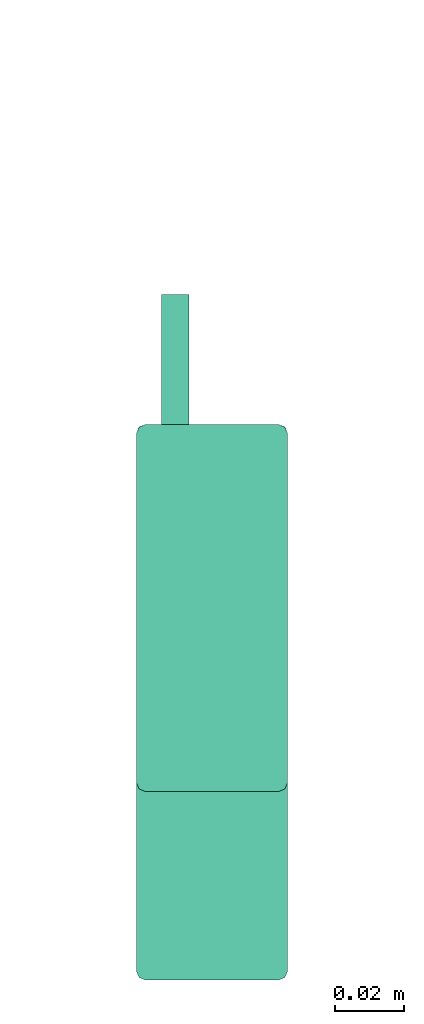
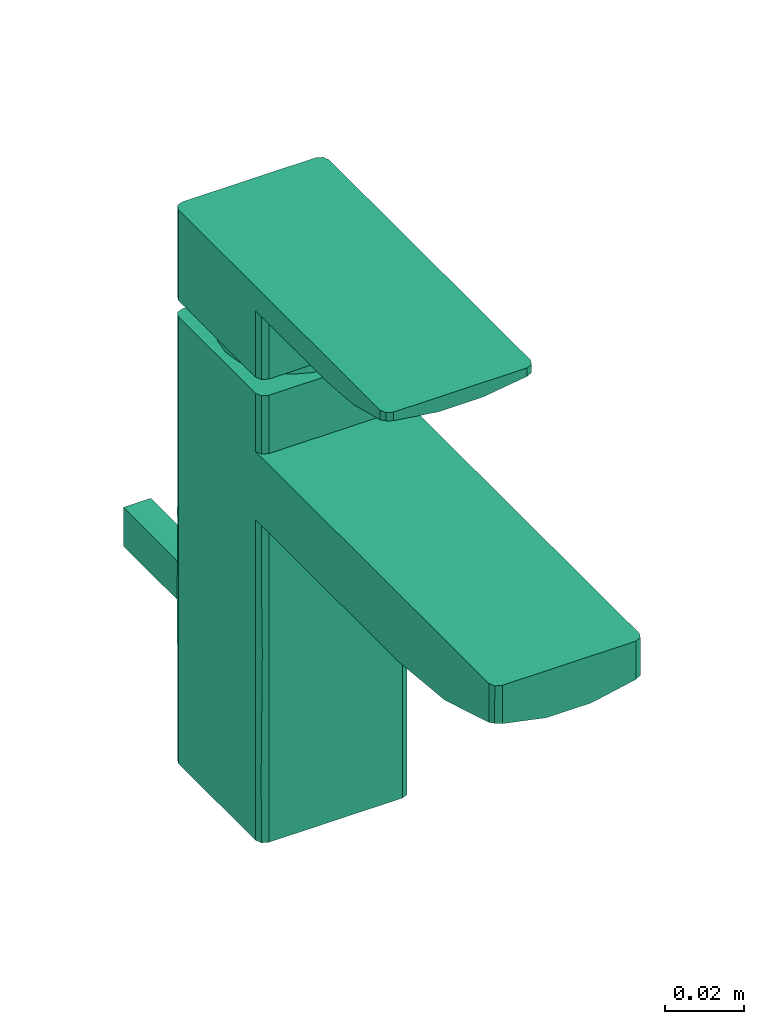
# One storey, part 2 of 2: 1 flow terminal.
"""IFC2X3 building model written with IfcOpenShell, lengths in millimetres."""

from ifc_helpers import new_model, entity, si_unit, converted_unit, derived_unit, direction, frame, origin, place, context, subcontext, project, spatial, faceted_brep, source, transform, mapped, material, type_object, type_shapes, element, save


model = new_model("IFC2X3")

# Units and contexts
model_context = context("Model", 3, precision=0.01, world=origin(), true_north=direction((6.12303176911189e-17, 1.0)))
body_context = subcontext(model_context, "Body", "Model", "MODEL_VIEW")
ifc_project = project(units=[si_unit("LENGTHUNIT", "METRE", prefix="MILLI"), si_unit("AREAUNIT", "SQUARE_METRE"), si_unit("VOLUMEUNIT", "CUBIC_METRE"), converted_unit("PLANEANGLEUNIT", "DEGREE", entity("IfcRatioMeasure", 0.0174532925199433), si_unit("PLANEANGLEUNIT", "RADIAN"), dimensions=[0, 0, 0, 0, 0, 0, 0]), si_unit("MASSUNIT", "GRAM", prefix="KILO"), derived_unit("MASSDENSITYUNIT", [(si_unit("MASSUNIT", "GRAM", prefix="KILO"), 1), (si_unit("LENGTHUNIT", "METRE"), -3)]), derived_unit("MOMENTOFINERTIAUNIT", [(si_unit("LENGTHUNIT", "METRE"), 4)]), si_unit("TIMEUNIT", "SECOND"), si_unit("FREQUENCYUNIT", "HERTZ"), si_unit("THERMODYNAMICTEMPERATUREUNIT", "DEGREE_CELSIUS"), derived_unit("THERMALTRANSMITTANCEUNIT", [(si_unit("MASSUNIT", "GRAM", prefix="KILO"), 1), (si_unit("THERMODYNAMICTEMPERATUREUNIT", "KELVIN"), -1), (si_unit("TIMEUNIT", "SECOND"), -3)]), derived_unit("VOLUMETRICFLOWRATEUNIT", [(si_unit("LENGTHUNIT", "METRE"), 3), (si_unit("TIMEUNIT", "SECOND"), -1)]), si_unit("ELECTRICCURRENTUNIT", "AMPERE"), si_unit("ELECTRICVOLTAGEUNIT", "VOLT"), si_unit("POWERUNIT", "WATT"), si_unit("FORCEUNIT", "NEWTON", prefix="KILO"), si_unit("ILLUMINANCEUNIT", "LUX"), si_unit("LUMINOUSFLUXUNIT", "LUMEN"), si_unit("LUMINOUSINTENSITYUNIT", "CANDELA"), derived_unit("USERDEFINED", [(si_unit("MASSUNIT", "GRAM", prefix="KILO"), -1), (si_unit("LENGTHUNIT", "METRE"), -2), (si_unit("TIMEUNIT", "SECOND"), 3), (si_unit("LUMINOUSFLUXUNIT", "LUMEN"), 1)]), derived_unit("LINEARVELOCITYUNIT", [(si_unit("LENGTHUNIT", "METRE"), 1), (si_unit("TIMEUNIT", "SECOND"), -1)]), si_unit("PRESSUREUNIT", "PASCAL"), derived_unit("USERDEFINED", [(si_unit("LENGTHUNIT", "METRE"), -2), (si_unit("MASSUNIT", "GRAM", prefix="KILO"), 1), (si_unit("TIMEUNIT", "SECOND"), -2)]), derived_unit("LINEARFORCEUNIT", [(si_unit("MASSUNIT", "GRAM", prefix="KILO"), 1), (si_unit("LENGTHUNIT", "METRE"), 1), (si_unit("TIMEUNIT", "SECOND"), -2), (si_unit("LENGTHUNIT", "METRE"), -1)]), derived_unit("PLANARFORCEUNIT", [(si_unit("MASSUNIT", "GRAM", prefix="KILO"), 1), (si_unit("LENGTHUNIT", "METRE"), 1), (si_unit("TIMEUNIT", "SECOND"), -2), (si_unit("LENGTHUNIT", "METRE"), -2)])], contexts=[model_context])

# Site, building, storey
site_placement = place(None, origin())
site = spatial("IfcSite", under=ifc_project, at=site_placement, Name="Default", CompositionType="ELEMENT")
building_placement = place(site_placement, origin())
building = spatial("IfcBuilding", under=site, at=building_placement, CompositionType="ELEMENT")
storey_placement = place(building_placement, origin())
storey = spatial("IfcBuildingStorey", under=building, at=storey_placement, Name="Level 1", CompositionType="ELEMENT", Elevation=0.0)

# Flow terminal
ifc_material = material(Name="Brushed Hard Graphite")
distribution_element_type = type_object("IfcDistributionElementType", Name="FFAS1301-101AL0BT0_REVIT:Acacia E SH SL basin mixer", material=ifc_material)
shared_shape = source(origin(), body_context, "Body", "Brep", [
    faceted_brep([(6.57743038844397, -22.0, 95.7626945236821), (-6.57743038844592, -22.0, 95.7626945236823), (-19.5, -22.0, 98.2239049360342), (-19.5, -22.0, 84.4217309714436), (-19.5, -22.0, 70.6195564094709), (-19.5, -22.0, 49.1119524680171), (-19.5, -22.0, 36.8339642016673), (-19.5, -22.0, 24.5559759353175), (-19.5, -22.0, 0.0), (19.4999999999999, -22.0, 0.0), (19.4999999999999, -22.0, 13.802173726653), (19.4999999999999, -22.0, 27.6043474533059), (19.4999999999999, -22.0, 41.4065222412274), (19.4999999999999, -22.0, 55.2086959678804), (19.4999999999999, -22.0, 76.7163009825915), (19.4999999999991, -22.0, 98.2239049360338), (19.5, -22.0, 138.0), (-19.5, -22.0, 138.0), (-19.5, -22.0, 120.0), (19.4999999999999, -22.0, 120.0), (0.0, -22.0, 160.962760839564), (-19.5000000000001, -22.0, 162.921385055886), (-19.5, -22.0, 143.0), (19.5, -22.0, 143.0), (19.4999999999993, -22.0, 162.921385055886), (-21.2677669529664, -21.2677669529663, 0.0), (-21.3250901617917, -21.2085215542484, 20.7032620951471), (-21.2484251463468, -21.2868994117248, 98.7558813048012), (-21.2496983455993, -21.2856527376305, 77.5206438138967), (-21.1055475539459, -21.4163029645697, 58.5102880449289), (-22.0, -19.5, 71.3956512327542), (-22.0, -19.5, 57.5934777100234), (-22.0, -19.5, 13.8021743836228), (-22.0, -19.5, 0.0), (-22.0, -19.5, 138.0), (-22.0, -19.5, 120.0), (-21.2677669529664, -21.2677669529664, 120.0), (-21.2677669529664, -21.2677669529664, 138.0), (-21.2007290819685, -21.3323538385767, 42.9729592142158), (-22.0, -19.5, 27.6043479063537), (-22.0, -19.5, 85.1978256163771), (-22.0, -19.5, 43.7913033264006), (-22.0, -19.5, 99.0), (21.2484251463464, -21.2868994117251, 98.7558813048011), (21.3461670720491, -21.1857245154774, 78.2967388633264), (22.0, -19.5, 13.8021741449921), (22.0, -19.5, 27.6043482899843), (21.2677669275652, -21.2677669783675, 20.7032614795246), (21.2677669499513, -21.2677669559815, 38.2956879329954), (22.0, -19.5, 71.3956517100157), (21.3361299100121, -21.1966516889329, 62.0904782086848), (21.2677669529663, -21.2677669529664, 0.0), (21.2677669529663, -21.2677669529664, 120.0), (21.2677669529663, -21.2677669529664, 138.0), (21.2677669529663, -21.2677669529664, 143.0), (22.0, -19.5, 85.1978258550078), (22.0, -19.5, 0.0), (22.0, -19.5, 49.4999992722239), (22.0, -19.5, 120.0), (22.0, -19.5, 138.0), (22.0, -19.5, 99.0), (22.0, -56.0171086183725, 99.0), (22.0, -37.7585543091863, 99.0), (22.0, -28.6292316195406, 99.0), (22.0, -24.0646158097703, 99.0), (-22.0, -37.7585315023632, 99.0), (-22.0, -56.0171095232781, 99.0), (-22.0, -24.0646328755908, 99.0), (-7.44565170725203, -92.0, 95.8501010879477), (-22.0, -92.0, 99.0), (7.4456517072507, -92.0, 95.8501010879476), (-22.0, -28.6292657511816, 99.0), (22.0, -92.0, 99.0), (-6.47819386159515, -113.347478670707, 97.6132068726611), (-4.80963952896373, -111.411871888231, 97.1525244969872), (-2.55855296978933, -110.149892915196, 96.8385292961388), (-22.0, -115.185414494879, 101.257316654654), (0.0, -109.712505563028, 96.7271891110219), (-7.36528992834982, -118.275588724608, 98.672408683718), (-7.36649669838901, -115.732154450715, 98.1460443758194), (-19.5000000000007, -140.0, 108.15399342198), (2.55855296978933, -110.149892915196, 96.8385292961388), (22.0, -115.185414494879, 101.257316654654), (4.80963952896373, -111.411871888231, 97.1525244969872), (6.47819386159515, -113.347478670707, 97.6132068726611), (7.36649669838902, -115.732154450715, 98.1460443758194), (7.36528992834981, -118.275588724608, 98.672408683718), (-6.58448876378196, -140.0, 105.478393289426), (-6.47617672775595, -120.674281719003, 99.1296249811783), (-4.80602874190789, -122.635875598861, 99.4756849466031), (-2.55792381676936, -123.918316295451, 99.6885992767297), (0.0, -124.364630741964, 99.7602539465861), (-21.2806853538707, -139.254753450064, 108.424116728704), (-22.0, -137.500000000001, 107.94448328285), (6.60304870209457, -140.0, 105.480299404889), (2.55792381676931, -123.918316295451, 99.6885992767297), (4.80602874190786, -122.635875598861, 99.475684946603), (19.5, -140.0, 108.15399342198), (6.47617672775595, -120.674281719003, 99.1296249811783), (22.0, -137.5, 107.94448328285), (21.2816508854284, -139.253773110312, 108.424033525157), (-22.0, -137.5, 120.0), (-21.2677669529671, -139.267766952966, 120.0), (-19.5000000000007, -140.0, 120.0), (19.5, -140.0, 120.0), (21.2677669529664, -139.267766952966, 120.0), (22.0, -137.5, 120.0), (-22.0, 19.5, 138.0), (-22.0, 19.5, 124.19782548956), (-22.0, 19.5, 103.499999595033), (-22.0, 19.5, 86.2499997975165), (-22.0, 19.5, 69.0), (-22.0, 19.5, 51.7500002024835), (-22.0, 19.5, 34.5000004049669), (-22.0, 19.5, 13.8021745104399), (-22.0, 19.5, 0.0), (-22.0, -82.5, 171.0), (-22.0, 19.5, 171.0), (-22.0, 19.5, 163.462760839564), (-22.0, 19.5, 143.0), (-22.0, -19.5, 143.0), (-22.0, -19.5, 163.462760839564), (-22.0, -20.8505832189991, 163.462760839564), (-22.0, -22.2011664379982, 163.462760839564), (-22.0, -24.9023328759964, 163.462760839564), (-22.0, -30.3046657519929, 163.462760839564), (-22.0, -41.1093315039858, 163.462760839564), (-22.0, -55.7774207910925, 163.462760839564), (-22.0, -69.3306105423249, 164.607182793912), (-22.0, -82.5, 168.008040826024), (22.0, 19.5, 0.0), (22.0, 19.5, 13.8021736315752), (22.0, 19.5, 27.6043472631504), (22.0, 19.5, 41.3956514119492), (22.0, 19.5, 62.0934784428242), (22.0, 19.5, 82.7913028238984), (22.0, 19.5, 96.5934764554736), (22.0, 19.5, 110.39565273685), (22.0, 19.5, 124.197826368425), (22.0, 19.5, 138.0), (22.0, -82.5, 171.0), (22.0, -82.5, 168.008040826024), (22.0, -69.3306105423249, 164.607182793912), (22.0, -55.7774207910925, 163.462760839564), (22.0, -41.1093311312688, 163.462760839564), (22.0, -30.3046655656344, 163.462760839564), (22.0, -24.9023327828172, 163.462760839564), (22.0, -22.2011663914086, 163.462760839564), (22.0, -20.8505831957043, 163.462760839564), (22.0, -19.5, 163.462760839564), (22.0, -19.5, 143.0), (22.0, 19.5, 143.0), (22.0, 19.4999999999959, 163.462760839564), (22.0, 19.4999999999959, 171.0), (21.2677669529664, 21.2677669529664, 138.0), (19.5, 22.0, 138.0), (13.7885822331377, 13.7885822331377, 138.0), (9.75000000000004, 16.8874953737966, 138.0), (5.04697137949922, 18.8355536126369, 138.0), (0.0, 19.5000000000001, 138.0), (-19.5, 22.0, 138.0), (-5.04697137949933, 18.8355536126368, 138.0), (-9.7500000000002, 16.8874953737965, 138.0), (-13.7885822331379, 13.7885822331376, 138.0), (-21.2677669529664, 21.2677669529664, 138.0), (-16.8874953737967, 9.74999999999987, 138.0), (-18.8355536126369, 5.04697137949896, 138.0), (-19.5, 0.0, 138.0), (-18.8355536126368, -5.04697137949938, 138.0), (-16.8874953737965, -9.75000000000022, 138.0), (-13.7885822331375, -13.7885822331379, 138.0), (-9.7499999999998, -16.8874953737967, 138.0), (-5.04697137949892, -18.8355536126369, 138.0), (0.0, -19.5, 138.0), (5.04697137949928, -18.8355536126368, 138.0), (9.75000000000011, -16.8874953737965, 138.0), (13.7885822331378, -13.7885822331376, 138.0), (19.5000000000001, 0.0, 138.0), (18.8355536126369, -5.0469713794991, 138.0), (16.8874953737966, -9.74999999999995, 138.0), (16.8874953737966, 9.75000000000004, 138.0), (18.8355536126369, 5.04697137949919, 138.0), (-21.2677669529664, 21.2677669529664, 0.0), (-19.5, 22.0, 0.0), (19.5, 22.0, 0.0), (21.2677669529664, 21.2677669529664, 0.0), (-6.65799145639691, 22.0, 51.9931021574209), (19.5, 22.0, 124.197825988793), (19.5, 22.0, 103.499999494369), (19.5, 22.0, 86.2499982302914), (19.5, 22.0, 68.9999989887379), (19.5, 22.0, 51.7499997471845), (19.5, 22.0, 34.500000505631), (19.5, 22.0, 13.8021740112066), (-6.65799145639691, 22.0, 39.9931021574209), (-14.6579914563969, 22.0, 39.9931021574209), (-14.6579914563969, 22.0, 51.9931021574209), (-19.5, 22.0, 13.8021738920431), (-19.5, 22.0, 27.6043482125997), (-19.5, 22.0, 41.3956520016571), (-19.5, 22.0, 62.0934777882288), (-19.5, 22.0, 82.7913035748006), (-19.5, 22.0, 96.5934778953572), (-19.5, 22.0, 110.3956517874), (-19.5, 22.0, 124.197825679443), (-19.5, 22.0, 162.921385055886), (-19.5, 22.0, 171.0), (19.5, 22.0, 171.0), (19.5000000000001, 22.0, 162.921385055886), (19.5, 22.0, 143.0), (-19.5, 22.0, 143.0), (-21.2677669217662, 21.2677669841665, 20.7032627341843), (-21.3900692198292, 21.1363490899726, 43.125002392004), (-21.2677669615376, 21.2677669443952, 117.296739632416), (-21.3292588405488, 21.2040575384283, 62.9976828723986), (-21.2677669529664, 21.2677669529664, 171.0), (-21.3505236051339, 21.1809409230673, 77.6250015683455), (-21.145426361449, 21.382172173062, 102.117550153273), (-21.2677669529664, 21.2677669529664, 143.0), (-21.2677669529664, -21.2677669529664, 143.0), (21.2677669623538, 21.2677669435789, 117.296739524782), (21.2677669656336, 21.2677669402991, 20.7032615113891), (21.2677669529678, 21.2677669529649, 171.0), (21.1363491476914, 21.3900691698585, 43.1250005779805), (21.2040575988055, 21.3292587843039, 62.9976815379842), (21.1809409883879, 21.3505235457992, 77.6250005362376), (21.3821722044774, 21.1454263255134, 102.117549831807), (21.2677669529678, 21.2677669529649, 143.0), (0.0, -117.318751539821, 97.0301139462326), (0.0, -124.606495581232, 98.7126222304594), (-6.47738647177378, -120.962623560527, 97.871368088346), (-6.47738647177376, -113.674879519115, 96.1888598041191), (0.0, -110.031007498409, 95.3476056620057), (6.47738647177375, -120.962623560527, 97.871368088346), (6.47738647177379, -113.674879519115, 96.1888598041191), (12.318684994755, 12.3186849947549, 143.0), (15.0872462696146, 8.71062569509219, 143.0), (16.8276366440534, 4.5089516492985, 143.0), (17.4212513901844, 0.0, 143.0), (16.8276366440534, -4.50895164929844, 143.0), (15.0872462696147, -8.71062569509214, 143.0), (12.318684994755, -12.3186849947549, 143.0), (8.71062569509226, -15.0872462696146, 143.0), (4.50895164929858, -16.8276366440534, 143.0), (0.0, -17.4212513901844, 143.0), (-4.50895164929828, -16.8276366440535, 143.0), (-8.710625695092, -15.0872462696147, 143.0), (-12.3186849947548, -12.3186849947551, 143.0), (-15.0872462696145, -8.71062569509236, 143.0), (-16.8276366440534, -4.50895164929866, 143.0), (-17.4212513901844, 0.0, 143.0), (-16.8276366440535, 4.5089516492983, 143.0), (-15.0872462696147, 8.71062569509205, 143.0), (-12.3186849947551, 12.3186849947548, 143.0), (0.0, 17.4212513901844, 143.0), (-4.50895164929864, 16.8276366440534, 143.0), (-8.71062569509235, 15.0872462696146, 143.0), (8.71062569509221, 15.0872462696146, 143.0), (4.50895164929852, 16.8276366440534, 143.0), (-21.2586231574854, 21.2768636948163, 163.295069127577), (-21.2579393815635, -21.277540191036, 163.294933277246), (-21.4865459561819, -20.7299334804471, 163.346635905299), (21.2579393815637, -21.2775401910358, 163.294933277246), (21.4865459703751, -20.7299334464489, 163.346635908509), (21.2579344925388, 21.2775450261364, 163.29491635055), (19.5, -85.0, 171.0), (21.2677669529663, -84.2677669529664, 171.0), (-21.2677669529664, -84.2677669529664, 171.0), (-19.5, -85.0, 171.0), (-21.2840980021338, -84.2512836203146, 168.47121602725), (-19.5, -85.0, 168.350013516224), (-6.53688578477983, -85.0, 166.487997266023), (6.55003772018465, -85.0, 166.488936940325), (19.5, -85.0, 168.350013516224), (21.2849373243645, -84.2504281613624, 168.471094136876), (0.0068178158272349, -71.7520730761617, 162.50836299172), (0.0, -55.7774207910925, 160.962760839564), (-11.1949079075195, -72.7383063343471, 163.362206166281), (-12.9793431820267, -55.7774207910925, 162.437686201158), (12.9793430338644, -55.7774207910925, 162.437686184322), (-3.64332454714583, -18.3162287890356, 140.458647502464), (-7.12906184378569, 17.2110771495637, 140.570058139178), (-3.62527419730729, 18.2254836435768, 140.681192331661), (-17.2110773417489, 7.12906142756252, 140.570058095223), (-18.4697609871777, 2.4315901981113, 140.570057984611), (-7.12906182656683, -17.211077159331, 140.570058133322), (-14.7794872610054, -11.3406990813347, 140.570058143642), (-14.7794872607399, 11.3406990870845, 140.57005813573), (-11.3406995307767, 14.779486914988, 140.570058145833), (-17.2110773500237, -7.12906138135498, 140.570058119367), (-18.4697609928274, -2.43159026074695, 140.570057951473), (-11.3406995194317, -14.7794869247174, 140.570058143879), (0.0, -18.6291358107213, 140.570058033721), (0.0, 18.6291358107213, 140.570058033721), (3.64332453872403, 18.3162287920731, 140.458647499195), (11.3406995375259, -14.7794869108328, 140.57005814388), (7.12906186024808, -17.2110771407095, 140.570058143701), (14.7794872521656, -11.3406991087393, 140.570058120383), (7.12906180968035, 17.2110771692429, 140.57005812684), (14.7794872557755, 11.3406990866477, 140.570058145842), (18.469760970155, -2.43159020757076, 140.570058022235), (17.2110773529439, 7.12906135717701, 140.570058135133), (18.4697609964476, 2.43159031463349, 140.570057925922), (11.3406995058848, 14.7794869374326, 140.570058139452), (17.2110773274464, -7.12906149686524, 140.570058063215), (3.62527420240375, -18.2254836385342, 140.681192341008), (-14.6579914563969, 60.0, 39.9931021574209), (-14.6579914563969, 60.0, 51.9931021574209), (-6.65799145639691, 60.0, 51.9931021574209), (-6.65799145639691, 60.0, 39.9931021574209)], [[[0, 1, 2, 3, 4, 5, 6, 7, 8, 9, 10, 11, 12, 13, 14, 15]], [[16, 17, 18, 19]], [[20, 21, 22, 23, 24]], [[25, 8, 26]], [[3, 2, 27]], [[27, 28, 3]], [[26, 8, 7, 6]], [[29, 30, 31]], [[32, 33, 25]], [[34, 35, 36, 37]], [[30, 29, 28]], [[26, 38, 39]], [[6, 5, 38]], [[27, 40, 28]], [[4, 3, 28]], [[39, 32, 26]], [[38, 29, 31]], [[25, 26, 32]], [[6, 38, 26]], [[38, 31, 41, 39]], [[38, 5, 29]], [[5, 4, 29]], [[28, 29, 4]], [[40, 27, 42]], [[40, 30, 28]], [[43, 15, 44]], [[45, 46, 47]], [[44, 15, 14]], [[47, 46, 48]], [[49, 44, 50]], [[48, 13, 12, 11]], [[10, 9, 51]], [[16, 19, 52, 53]], [[54, 24, 23]], [[43, 44, 55]], [[47, 10, 51]], [[11, 47, 48]], [[14, 50, 44]], [[51, 56, 45]], [[46, 57, 48]], [[52, 58, 59, 53]], [[51, 45, 47]], [[48, 57, 50]], [[55, 44, 49]], [[55, 60, 43]], [[50, 14, 13]], [[48, 50, 13]], [[57, 49, 50]], [[47, 11, 10]], [[61, 0, 62]], [[63, 62, 15, 64]], [[65, 1, 66]], [[42, 27, 67]], [[68, 69, 66]], [[66, 1, 68]], [[68, 1, 0, 70]], [[43, 60, 64]], [[2, 67, 27]], [[65, 71, 67, 2]], [[72, 70, 61]], [[65, 2, 1]], [[61, 70, 0]], [[0, 15, 62]], [[15, 43, 64]], [[73, 68, 74]], [[68, 75, 74]], [[76, 69, 68]], [[77, 75, 68]], [[78, 76, 79]], [[68, 73, 79]], [[78, 80, 76]], [[76, 68, 79]], [[70, 81, 77]], [[70, 72, 82]], [[83, 81, 70]], [[68, 70, 77]], [[84, 70, 85]], [[85, 70, 82]], [[85, 82, 86]], [[83, 70, 84]], [[87, 88, 89]], [[87, 90, 91]], [[90, 87, 89]], [[80, 92, 93]], [[80, 88, 87]], [[80, 78, 88]], [[80, 93, 76]], [[94, 87, 91]], [[94, 95, 96]], [[97, 98, 86]], [[98, 94, 96]], [[97, 82, 99]], [[97, 99, 100]], [[94, 98, 97]], [[94, 91, 95]], [[86, 82, 97]], [[36, 35, 101, 102, 103, 104, 105, 106, 58, 52, 19, 18]], [[34, 107, 108, 109, 110, 111, 112, 113, 114, 115, 33, 32, 39, 41, 31, 30, 40, 42, 67, 71, 65, 66, 69, 76, 93, 101, 35]], [[116, 117, 118, 119, 120, 121, 122, 123, 124, 125, 126, 127, 128, 129]], [[101, 93, 92]], [[101, 92, 102]], [[92, 103, 102]], [[103, 92, 80]], [[104, 103, 80, 87, 94, 97]], [[105, 104, 100]], [[100, 104, 97]], [[100, 99, 106]], [[100, 106, 105]], [[58, 106, 99, 82, 72, 61, 62, 63, 64, 60, 55, 49, 57, 46, 45, 56, 130, 131, 132, 133, 134, 135, 136, 137, 138, 139, 59]], [[140, 141, 142, 143, 144, 145, 146, 147, 148, 149, 150, 151, 152, 153]], [[154, 155, 139]], [[139, 155, 156]], [[157, 156, 155]], [[158, 157, 155]], [[159, 158, 155]], [[155, 160, 159]], [[161, 159, 160]], [[162, 161, 160]], [[162, 160, 163]], [[107, 163, 160]], [[160, 164, 107]], [[165, 163, 107]], [[166, 165, 107]], [[166, 107, 167]], [[167, 107, 34]], [[168, 167, 34]], [[169, 168, 34]], [[34, 170, 169]], [[17, 170, 34]], [[17, 34, 37]], [[171, 170, 17]], [[171, 17, 172]], [[173, 172, 17]], [[173, 17, 16]], [[16, 174, 173]], [[175, 174, 16]], [[176, 175, 16]], [[16, 59, 176]], [[16, 53, 59]], [[177, 59, 139]], [[59, 177, 178]], [[178, 179, 59]], [[179, 176, 59]], [[156, 180, 139]], [[180, 181, 139]], [[139, 181, 177]], [[115, 182, 183, 184, 185, 130, 56, 51, 9, 8, 25, 33]], [[155, 186, 160]], [[186, 155, 187]], [[186, 187, 188]], [[186, 188, 189]], [[186, 189, 190]], [[186, 190, 191]], [[186, 191, 192]], [[186, 192, 193]], [[186, 193, 184]], [[184, 194, 186]], [[194, 184, 183]], [[183, 195, 194]], [[195, 183, 196]], [[196, 183, 197]], [[196, 197, 198]], [[196, 198, 199]], [[196, 199, 200]], [[196, 200, 201]], [[196, 201, 202]], [[196, 202, 203]], [[196, 203, 204]], [[196, 204, 160]], [[196, 160, 186]], [[205, 206, 207, 208, 209, 210]], [[198, 211, 212]], [[212, 211, 113]], [[204, 213, 164]], [[200, 212, 214]], [[108, 107, 164]], [[182, 115, 114]], [[215, 118, 117]], [[200, 214, 216]], [[216, 217, 201]], [[182, 211, 197]], [[204, 203, 213]], [[109, 213, 217]], [[211, 182, 114]], [[213, 203, 217]], [[164, 160, 204]], [[197, 183, 182]], [[218, 205, 210]], [[109, 108, 213]], [[164, 213, 108]], [[197, 211, 198]], [[113, 211, 114]], [[217, 203, 202, 201]], [[217, 216, 110]], [[110, 216, 111]], [[110, 109, 217]], [[214, 111, 216]], [[216, 201, 200]], [[212, 113, 112]], [[212, 200, 199, 198]], [[112, 111, 214]], [[214, 212, 112]], [[36, 18, 17, 37]], [[21, 219, 22]], [[138, 137, 220]], [[132, 131, 185, 221]], [[131, 130, 185]], [[154, 139, 138]], [[153, 152, 222]], [[134, 223, 224]], [[134, 224, 225]], [[225, 226, 135]], [[187, 155, 154]], [[185, 184, 193]], [[208, 227, 209]], [[138, 220, 154]], [[188, 220, 226]], [[221, 223, 132]], [[220, 137, 226]], [[188, 187, 220]], [[221, 185, 193, 192]], [[154, 220, 187]], [[221, 192, 223]], [[226, 137, 136, 135]], [[226, 225, 189]], [[189, 225, 190]], [[189, 188, 226]], [[224, 190, 225]], [[225, 135, 134]], [[223, 192, 191]], [[223, 134, 133, 132]], [[191, 190, 224]], [[224, 223, 191]], [[228, 229, 230]], [[230, 231, 228]], [[231, 232, 228]], [[228, 233, 229]], [[232, 234, 228]], [[233, 228, 234]], [[75, 77, 232]], [[75, 232, 231]], [[75, 231, 74]], [[73, 74, 231]], [[79, 73, 231]], [[231, 78, 79]], [[90, 230, 229]], [[90, 229, 91]], [[78, 230, 88]], [[90, 89, 230]], [[230, 89, 88]], [[230, 78, 231]], [[95, 91, 229]], [[95, 229, 233]], [[96, 95, 233]], [[98, 96, 233]], [[233, 86, 98]], [[233, 234, 86]], [[81, 234, 232]], [[81, 232, 77]], [[85, 234, 84]], [[84, 234, 83]], [[234, 81, 83]], [[234, 85, 86]], [[227, 151, 209]], [[209, 151, 235]], [[236, 235, 151]], [[237, 236, 151]], [[238, 237, 151]], [[151, 150, 238]], [[239, 238, 150]], [[240, 239, 150]], [[240, 150, 241]], [[23, 241, 150]], [[150, 54, 23]], [[242, 241, 23]], [[243, 242, 23]], [[243, 23, 244]], [[244, 23, 22]], [[245, 244, 22]], [[246, 245, 22]], [[22, 247, 246]], [[120, 247, 22]], [[120, 22, 219]], [[248, 247, 120]], [[248, 120, 249]], [[250, 249, 120]], [[250, 120, 119]], [[119, 251, 250]], [[252, 251, 119]], [[253, 252, 119]], [[119, 210, 253]], [[119, 218, 210]], [[254, 210, 209]], [[210, 254, 255]], [[255, 256, 210]], [[256, 253, 210]], [[235, 257, 209]], [[257, 258, 209]], [[209, 258, 254]], [[259, 205, 218]], [[119, 118, 259]], [[119, 259, 218]], [[120, 260, 261, 121]], [[260, 120, 219]], [[219, 21, 260]], [[262, 24, 54]], [[150, 149, 263, 262]], [[150, 262, 54]], [[264, 152, 151]], [[264, 151, 227]], [[227, 208, 264]], [[265, 266, 140, 153, 222, 207, 206, 215, 117, 116, 267, 268]], [[206, 205, 259]], [[206, 259, 215]], [[118, 215, 259]], [[116, 129, 269]], [[116, 269, 267]], [[269, 268, 267]], [[268, 269, 270]], [[265, 268, 270, 271, 272, 273]], [[266, 265, 274]], [[274, 265, 273]], [[274, 141, 140]], [[274, 140, 266]], [[222, 152, 264]], [[264, 208, 207]], [[264, 207, 222]], [[142, 273, 272]], [[275, 272, 271]], [[142, 272, 275]], [[129, 270, 269]], [[276, 277, 278]], [[271, 270, 277]], [[127, 278, 128]], [[273, 141, 274]], [[276, 279, 275]], [[279, 143, 142]], [[142, 275, 279]], [[129, 277, 270]], [[277, 128, 278]], [[277, 275, 271]], [[129, 128, 277]], [[142, 141, 273]], [[276, 275, 277]], [[20, 24, 145]], [[144, 143, 279, 276, 20, 145]], [[125, 21, 20]], [[262, 147, 24]], [[125, 124, 123, 21]], [[263, 149, 148, 147, 262]], [[126, 125, 20, 276, 278, 127]], [[261, 260, 123, 122, 121]], [[146, 145, 24, 147]], [[21, 123, 260]], [[244, 245, 280]], [[281, 255, 282]], [[283, 284, 251]], [[245, 285, 280]], [[247, 248, 286]], [[287, 288, 163]], [[285, 245, 246]], [[289, 290, 168]], [[247, 291, 246]], [[287, 253, 288]], [[289, 248, 249]], [[280, 173, 292]], [[172, 280, 285]], [[250, 290, 249]], [[283, 287, 165]], [[291, 285, 246]], [[167, 168, 290]], [[286, 291, 247]], [[291, 171, 285]], [[290, 289, 249]], [[286, 289, 169]], [[170, 291, 286]], [[289, 286, 248]], [[284, 290, 250]], [[167, 284, 166]], [[282, 293, 159]], [[252, 283, 251]], [[287, 252, 253]], [[284, 283, 166]], [[254, 293, 282]], [[284, 167, 290]], [[288, 256, 281]], [[288, 253, 256]], [[254, 282, 255]], [[281, 256, 255]], [[172, 285, 171]], [[283, 165, 166]], [[287, 163, 165]], [[171, 291, 170]], [[161, 162, 281]], [[163, 288, 162]], [[283, 252, 287]], [[161, 282, 159]], [[173, 280, 172]], [[169, 289, 168]], [[161, 281, 282]], [[170, 286, 169]], [[280, 292, 244]], [[284, 250, 251]], [[288, 281, 162]], [[254, 258, 294]], [[295, 242, 296]], [[297, 241, 295]], [[258, 298, 294]], [[299, 235, 236]], [[177, 300, 178]], [[298, 258, 257]], [[301, 302, 181]], [[257, 235, 303]], [[295, 296, 175]], [[301, 236, 237]], [[294, 159, 293]], [[158, 294, 298]], [[304, 240, 297]], [[304, 297, 179]], [[158, 298, 157]], [[177, 181, 302]], [[157, 303, 156]], [[303, 157, 298]], [[180, 301, 181]], [[299, 301, 180]], [[156, 303, 299]], [[156, 299, 180]], [[300, 302, 238]], [[300, 238, 239]], [[305, 292, 173]], [[240, 304, 239]], [[297, 240, 241]], [[300, 304, 178]], [[296, 242, 243]], [[304, 300, 239]], [[296, 243, 305]], [[295, 241, 242]], [[244, 305, 243]], [[305, 244, 292]], [[303, 298, 257]], [[304, 179, 178]], [[297, 176, 179]], [[299, 303, 235]], [[174, 175, 296]], [[176, 295, 175]], [[238, 302, 237]], [[174, 305, 173]], [[159, 294, 158]], [[302, 301, 237]], [[174, 296, 305]], [[301, 299, 236]], [[294, 293, 254]], [[177, 302, 300]], [[297, 295, 176]], [[306, 307, 308, 309]], [[196, 186, 308, 307]], [[195, 196, 307, 306]], [[194, 195, 306, 309]], [[186, 194, 309, 308]]]),
])
type_shapes(distribution_element_type, [shared_shape])
flow_terminal_placement = place(storey_placement, frame((-207.792931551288, -3065.16617023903, 0.0)))
element("IfcFlowTerminal", 1, at=flow_terminal_placement, inside=storey, type_object=distribution_element_type, material=ifc_material, Name="FFAS1301-101AL0BT0_REVIT:Acacia E SH SL basin mixer", ObjectType="FFAS1301-101AL0BT0_REVIT:Acacia E SH SL basin mixer", context=body_context, shape_type="MappedRepresentation", body=[
    mapped(shared_shape, transform((0.0, 0.0, 0.0), scale=1.0)),
])

save(model, "model.ifc")
